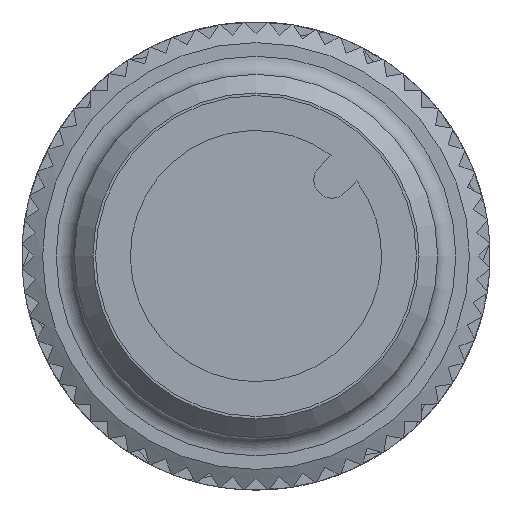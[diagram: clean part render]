
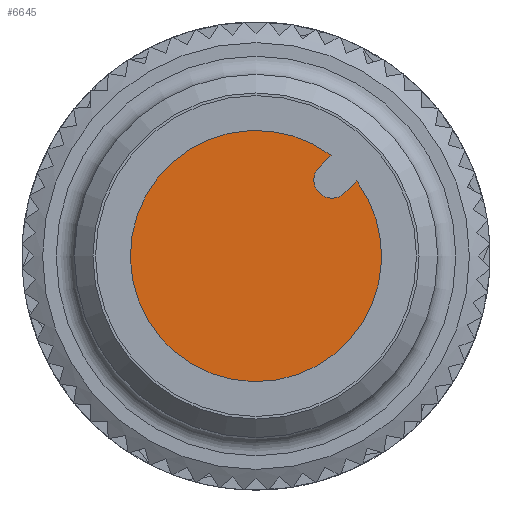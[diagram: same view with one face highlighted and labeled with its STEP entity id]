
A CAD part, left-side view. The second image highlights one B-rep face of the part: STEP entity #6645.
In plain terms, the highlighted planar face has unit normal (-1, 0, 0).
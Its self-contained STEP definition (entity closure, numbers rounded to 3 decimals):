
#421=CIRCLE('',#7097,4.15);
#422=CIRCLE('',#7100,0.6);
#1775=ORIENTED_EDGE('',*,*,#2558,.F.);
#1776=ORIENTED_EDGE('',*,*,#2564,.T.);
#1777=ORIENTED_EDGE('',*,*,#2562,.F.);
#1778=ORIENTED_EDGE('',*,*,#2560,.F.);
#2558=EDGE_CURVE('',#3050,#3051,#3411,.T.);
#2560=EDGE_CURVE('',#3051,#3052,#421,.T.);
#2562=EDGE_CURVE('',#3052,#3053,#3414,.T.);
#2564=EDGE_CURVE('',#3050,#3053,#422,.T.);
#3050=VERTEX_POINT('',#10395);
#3051=VERTEX_POINT('',#10397);
#3052=VERTEX_POINT('',#10401);
#3053=VERTEX_POINT('',#10405);
#3411=LINE('',#10396,#3770);
#3414=LINE('',#10404,#3773);
#3770=VECTOR('',#8315,1000.);
#3773=VECTOR('',#8324,1000.);
#4032=EDGE_LOOP('',(#1775,#1776,#1777,#1778));
#4319=FACE_BOUND('',#4032,.T.);
#4554=PLANE('',#7101);
#6645=ADVANCED_FACE('',(#4319),#4554,.F.);
#7097=AXIS2_PLACEMENT_3D('',#10400,#8319,#8320);
#7100=AXIS2_PLACEMENT_3D('',#10408,#8328,#8329);
#7101=AXIS2_PLACEMENT_3D('',#10409,#8330,#8331);
#8315=DIRECTION('',(0.,-0.707,0.707));
#8319=DIRECTION('',(1.,0.,0.));
#8320=DIRECTION('',(0.,0.,-1.));
#8324=DIRECTION('',(0.,0.707,-0.707));
#8328=DIRECTION('',(1.,0.,0.));
#8329=DIRECTION('',(0.,0.,-1.));
#8330=DIRECTION('',(1.,0.,0.));
#8331=DIRECTION('',(0.,0.,-1.));
#10395=CARTESIAN_POINT('',(10.,-2.934,2.086));
#10396=CARTESIAN_POINT('',(10.,-2.934,2.086));
#10397=CARTESIAN_POINT('',(10.,-3.328,2.479));
#10400=CARTESIAN_POINT('',(10.,0.,0.));
#10401=CARTESIAN_POINT('',(10.,-2.479,3.328));
#10404=CARTESIAN_POINT('',(10.,-2.479,3.328));
#10405=CARTESIAN_POINT('',(10.,-2.086,2.934));
#10408=CARTESIAN_POINT('',(10.,-2.51,2.51));
#10409=CARTESIAN_POINT('',(10.,0.,0.));
